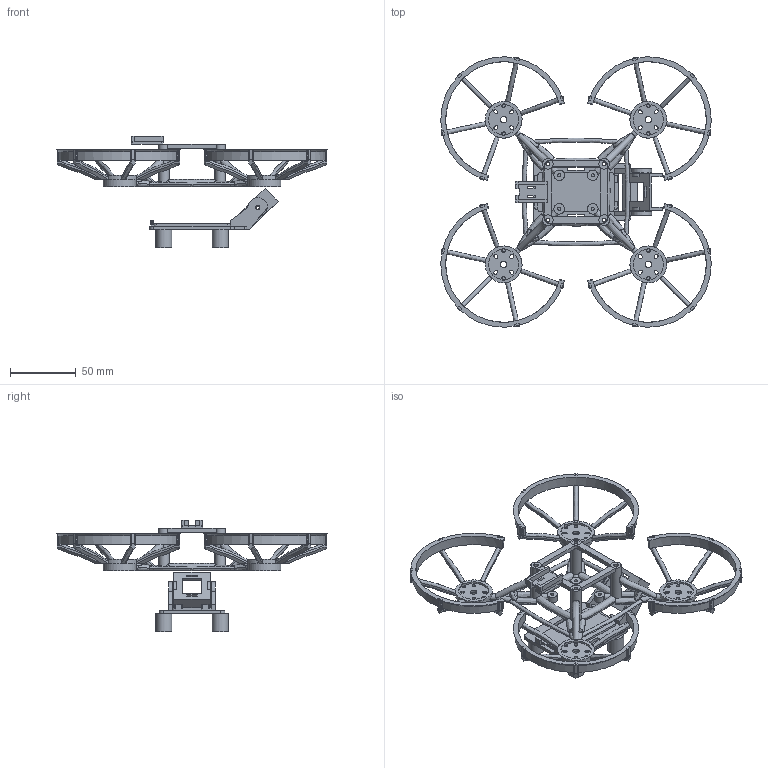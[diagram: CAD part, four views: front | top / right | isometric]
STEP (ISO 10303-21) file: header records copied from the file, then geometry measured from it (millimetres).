
FILE_DESCRIPTION(('Open CASCADE Model'),'2;1');
FILE_NAME('Open CASCADE Shape Model','2026-10-11T20:53:56',('Author'),( 'Open CASCADE'),'Open CASCADE STEP processor 7.8','Open CASCADE 7.8' ,'Unknown');
FILE_SCHEMA(('AUTOMOTIVE_DESIGN { 1 0 10303 214 1 1 1 1 }'));
Length unit declared in the file: millimetre
Products named in the file (13): CDE1302_Astra_01_v2; Frame_PETG; Guard_1_PETG; Guard_2_PETG; Guard_3_PETG; Guard_4_PETG; BottomPlate_PETG; BatteryPad_TPU; CameraCradle_TPU; Foot_1_TPU; Foot_2_TPU; Foot_3_TPU; Foot_4_TPU
Assembly tree (12 placements, depth 2):
  CDE1302_Astra_01_v2
    Frame_PETG
    Guard_1_PETG
    Guard_2_PETG
    Guard_3_PETG
    Guard_4_PETG
    BottomPlate_PETG
    BatteryPad_TPU
    CameraCradle_TPU
    Foot_1_TPU
    Foot_2_TPU
    Foot_3_TPU
    Foot_4_TPU
Bounding box: 205.56 x 205.56 x 84.7 mm (x, y, z)
Volume: 81449.7 mm3; surface area: 80019.2 mm2
Topology: 12 solids, 12 shells, 1765 faces, 4960 edges, 3236 vertices
Faces by surface type: plane 1121, cylinder 404, bspline 216, cone 24
Full cylindrical faces by diameter (mm): 2.3 x4, 2.4 x8, 2.5 x2, 2.8 x8, 2.9 x12, 3.3 x2, 4.8 x4, 5 x8, 8 x8, 12 x4, 25 x4
Entity records: 290652 total; most frequent: CARTESIAN_POINT 200539, DIRECTION 13911, ORIENTED_EDGE 9896, PCURVE 9896, DEFINITIONAL_REPRESENTATION 9896, LINE 8220, VECTOR 8220, EDGE_CURVE 4948
